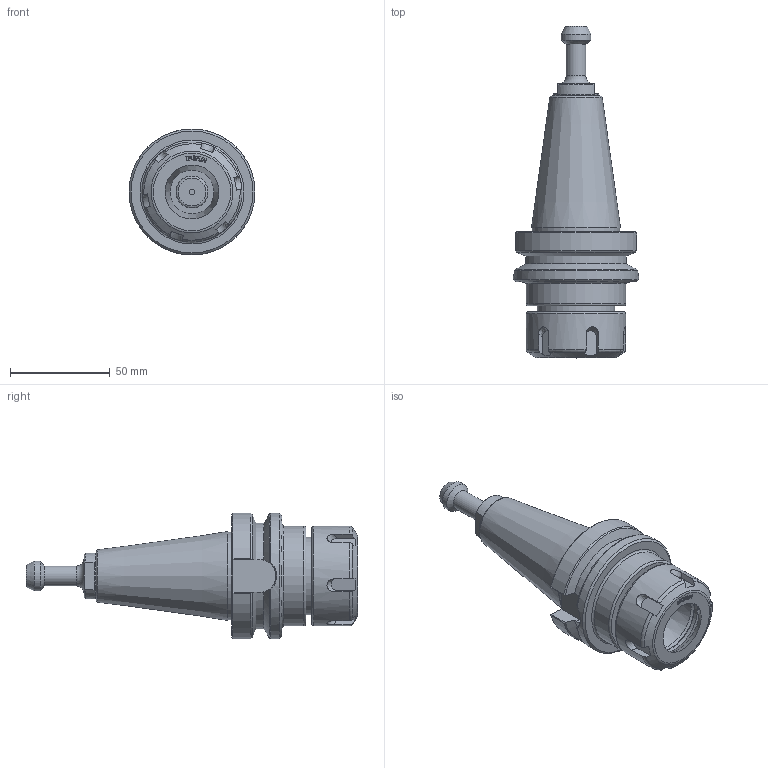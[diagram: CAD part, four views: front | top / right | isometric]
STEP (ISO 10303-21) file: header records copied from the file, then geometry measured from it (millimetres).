
FILE_DESCRIPTION(/* description */ (''),/* implementation_level */ '2;1');
FILE_NAME(/* name */ 'X:\Проектный отдел\Слава\STEP\BT40-ER32-70.stp',/* time_stamp */ '2022-02-11T16:36:16+03:00',/* author */ ('Евгений'),/* organization */ (''),/* preprocessor_version */ 'ST-DEVELOPER v18',/* originating_system */ 'Autodesk Inventor 2020',/* authorisation */ '');
FILE_SCHEMA (('AUTOMOTIVE_DESIGN { 1 0 10303 214 3 1 1 }'));
Length unit declared in the file: millimetre
Products named in the file (4): BT40-ER32-70; Деталь1; Крепление; Деталь
Assembly tree (3 placements, depth 2):
  BT40-ER32-70
    Деталь1
    Крепление
    Деталь
Bounding box: 63 x 166 x 63 mm (x, y, z)
Volume: 169095.9 mm3; surface area: 42502.2 mm2
Topology: 3 solids, 3 shells, 235 faces, 666 edges, 456 vertices
Faces by surface type: plane 119, bspline 53, cylinder 24, cone 23, torus 16
Full cylindrical faces by diameter (mm): 3 x2, 10 x1, 15 x1, 16 x2, 17 x2, 22 x1, 23 x1, 32.5 x1, 39 x3, 44 x1, 50 x2, 63 x1
Entity records: 8479 total; most frequent: CARTESIAN_POINT 2442, ORIENTED_EDGE 1332, DIRECTION 1028, EDGE_CURVE 666, VERTEX_POINT 456, AXIS2_PLACEMENT_3D 351, LINE 326, VECTOR 326
